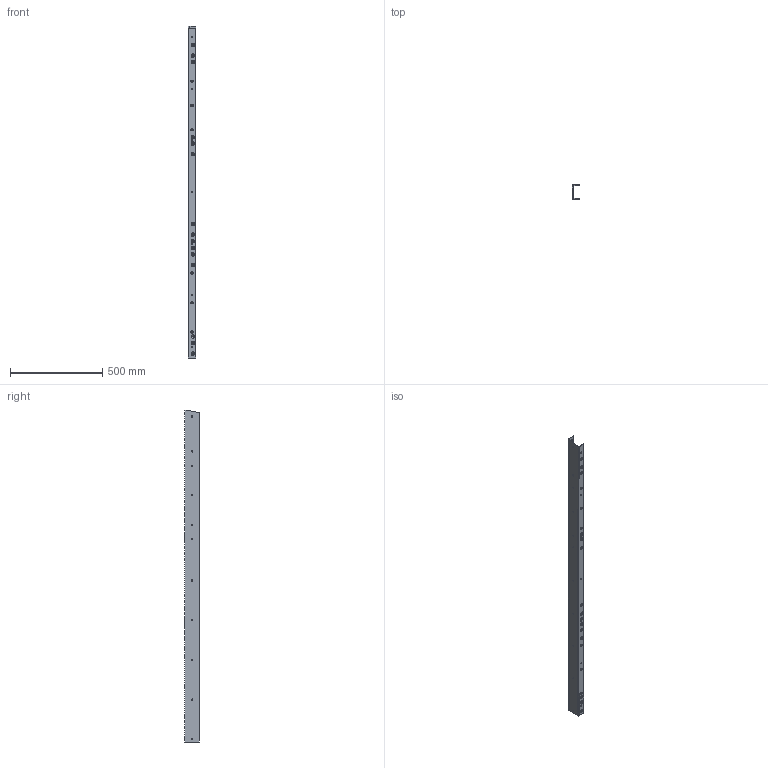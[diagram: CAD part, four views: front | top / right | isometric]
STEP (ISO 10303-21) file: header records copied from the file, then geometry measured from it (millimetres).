
FILE_DESCRIPTION (( 'STEP AP214' ), '1' );
FILE_NAME ('ÂØÀÅ.746212.006 Øâåëëåð.STEP', '2024-05-16T12:17:03', ( '' ), ( '' ), 'SwSTEP 2.0', 'SolidWorks 2019', '' );
FILE_SCHEMA (( 'AUTOMOTIVE_DESIGN' ));
Length unit declared in the file: millimetre
Products named in the file (1): ÂØÀÅ.746212.006 Øâåëëåð
Bounding box: 40 x 80 x 1799 mm (x, y, z)
Volume: 1085311.3 mm3; surface area: 550566 mm2
Topology: 1 solids, 1 shells, 195 faces, 522 edges, 329 vertices
Faces by surface type: cone 104, cylinder 80, plane 11
Entity records: 6675 total; most frequent: DIRECTION 1224, CARTESIAN_POINT 1050, ORIENTED_EDGE 1044, EDGE_CURVE 522, AXIS2_PLACEMENT_3D 507, VERTEX_POINT 329, EDGE_LOOP 321, CIRCLE 311
